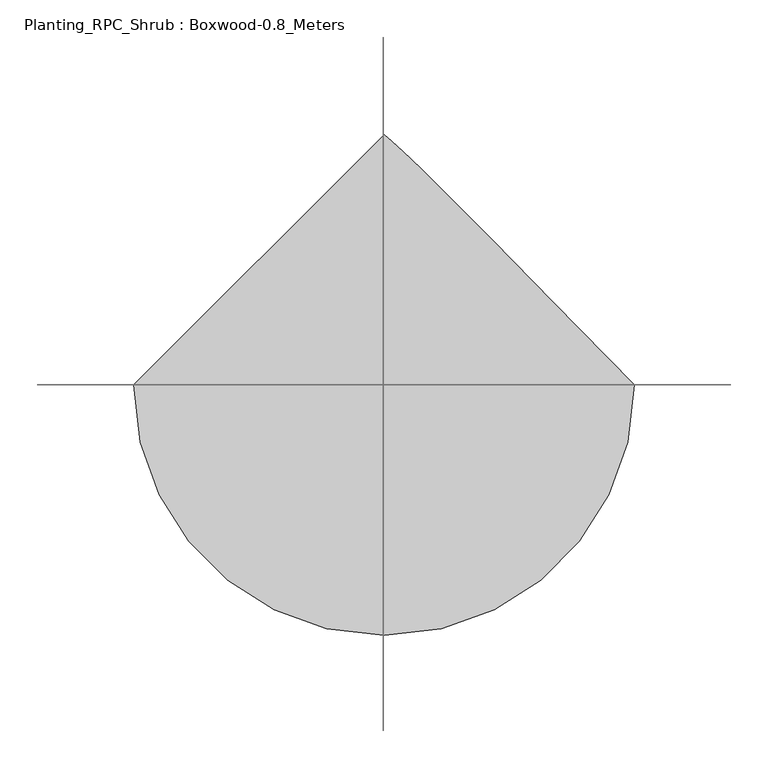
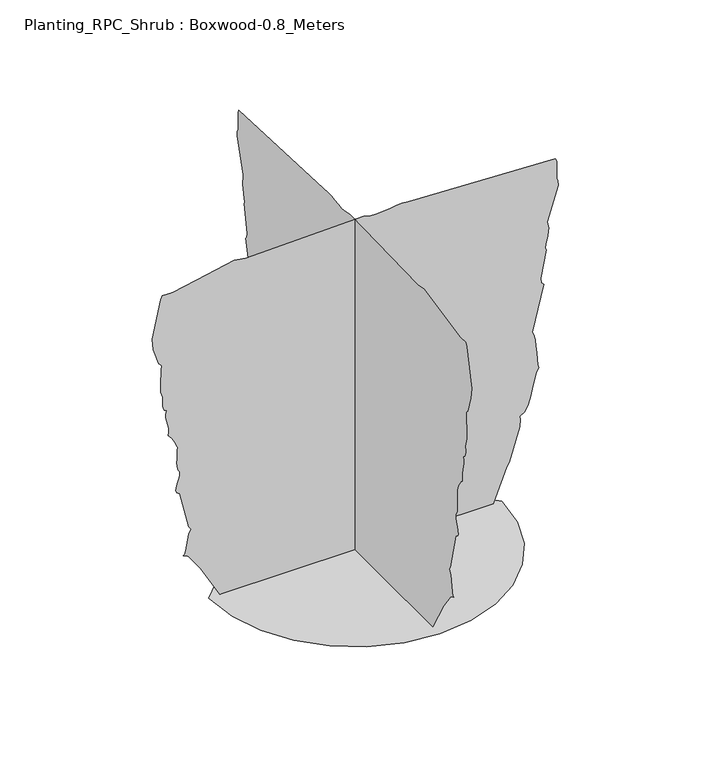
"""IFC4 building model written with IfcOpenShell, lengths in millimetres: geographic element geometry, Planting_RPC_Shrub : Boxwood-0.8_Meters."""

from ifc_helpers import new_model, si_unit, origin, place, context, project, spatial, triangles, source, transform, mapped, element, save


def planting_rpc_shrub_boxwood_0_8_meters_9d4106b8(model_context):
    return source(origin(), model_context, "Body", "Tessellation", [
        triangles([(-334.8049999, 0.0, 0.0), (-325.9524879, -76.7150031, 0.0), (-300.7449968, -147.1654994, 0.0), (-261.2000087, -209.3330074, 0.0), (-209.3330074, -261.2000087, 0.0), (-147.1654994, -300.7449968, 0.0), (-76.7150031, -325.9524879, 0.0), (1.46e-05, -334.8049999, 0.0), (76.7150031, -325.9524879, 0.0), (147.1654994, -300.7449968, 0.0), (209.3330074, -261.2000087, 0.0), (261.2000087, -209.3330074, 0.0), (300.7449968, -147.1654994, 0.0), (325.9524879, -76.7150031, 0.0), (334.8049999, 2.93e-05, 0.0), (226.0005039, 111.6062509, 0.0), (145.3385033, 193.7769984, 0.0), (88.1284961, 251.4175026, 0.0), (49.6799981, 289.435004, 0.0), (25.3027502, 312.7350171, 0.0), (10.3061501, 326.2224933, 0.0), (-4.39e-05, 334.8049999, 0.0), (-309.4400147, 3.66e-05, 1.16184), (-353.9399875, 3.2e-05, 79.661998), (-381.6999936, 2.97e-05, 117.4644962), (-393.4425181, 2.94e-05, 123.1702525), (-390.2850074, 2.92e-05, 125.6652492), (-387.6074819, 2.87e-05, 133.92075), (-385.2150043, 2.8e-05, 145.6324988), (-382.9175065, 2.72e-05, 158.4962485), (-380.5274998, 2.66e-05, 170.2082517), (-377.8475035, 2.61e-05, 178.4637434), (-374.6924998, 2.59e-05, 180.9587583), (-380.3324899, 2.55e-05, 188.4604988), (-401.4475164, 2.03e-05, 275.5724962), (-408.5349835, 1.99e-05, 281.3900009), (-410.8425098, 1.96e-05, 286.5399954), (-409.8100147, 1.92e-05, 293.8824978), (-406.8674981, 1.87e-05, 302.5774976), (-403.4500105, 1.81e-05, 311.7850024), (-400.9825012, 1.76e-05, 320.6600058), (-400.8999845, 1.71e-05, 328.3674932), (-404.6250114, 1.68e-05, 334.0599873), (-406.3799915, 1.66e-05, 337.9750099), (-407.3149999, 1.61e-05, 344.6125045), (-407.6225029, 1.57e-05, 353.1425071), (-407.4924963, 1.51e-05, 362.7325104), (-407.1099978, 1.45e-05, 372.554985), (-406.6675103, 1.39e-05, 381.7774961), (-406.3500152, 1.35e-05, 389.5725145), (-407.0350024, 1.34e-05, 391.5250116), (-409.0224901, 1.31e-05, 396.2200012), (-412.0074823, 1.27e-05, 402.6300024), (-415.6849832, 1.23e-05, 409.7300051), (-419.7499967, 1.19e-05, 416.4899849), (-423.9025048, 1.15e-05, 421.8799902), (-427.8350046, 1.14e-05, 424.8750109), (-426.2275083, 1.08e-05, 434.0374967), (-426.937494, 1.03e-05, 443.4400114), (-428.9700007, 9.7e-06, 452.8574962), (-431.335009, 9.2e-06, 462.065001), (-433.0450064, 8.7e-06, 470.8375033), (-433.1049954, 8.2e-06, 478.9475098), (-430.524993, 7.7e-06, 486.1725048), (-436.2225014, 7.5e-06, 490.1374881), (-439.0950005, 7.2e-06, 495.2375038), (-440.042508, 6.8e-06, 501.2425152), (-439.9699834, 6.5e-06, 507.9274996), (-439.7750098, 6e-06, 515.0700142), (-440.3625103, 5.5e-06, 522.4399858), (-442.6325026, 5.1e-06, 529.8150081), (-444.2050083, 4.8e-06, 535.7724933), (-444.8899956, 4.3e-06, 544.2524989), (-444.8999877, 3.7e-06, 554.5649872), (-444.4600073, 3e-06, 566.0174858), (-443.782505, 2.3e-06, 577.9150154), (-443.0874893, 1.6e-06, 589.5675018), (-442.5924977, 9e-07, 600.280002), (-448.754985, 5e-07, 606.5000075), (-461.5725165, -1.8e-06, 645.5999828), (-463.9300035, -3.3e-06, 670.657465), (-445.0549928, -8.6e-06, 760.5000189), (-441.1724899, -9.1e-06, 768.5374643), (-418.2325021, -9e-06, 766.9975147), (-363.7175157, -9.7e-06, 779.0325359), (-276.479999, -1.08e-05, 796.6249941), (-250.2425016, -1.05e-05, 792.1650192), (18.8353749, -1.09e-05, 798.8925156), (34.8130004, -1.07e-05, 794.9399952), (49.9132506, -1.06e-05, 793.9899805), (64.3882482, -1.07e-05, 795.0349749), (78.491003, -1.08e-05, 797.0599966), (92.4727531, -1.09e-05, 799.0525349), (106.5867535, -1.1e-05, 800.0000061), (121.0847512, -1.09e-05, 798.8925156), (457.4325076, -1.01e-05, 784.7650349), (460.0849983, -9.7e-06, 778.2274979), (460.1625009, -7.2e-06, 736.9850298), (462.8149916, -6.8e-06, 730.445022), (463.5900169, -6.2e-06, 719.2149662), (439.172503, -1.4e-06, 639.4199821), (440.5300146, -8e-07, 628.6149731), (441.9225168, -4e-07, 622.8824741), (441.2624917, 0.0, 614.7749748), (439.3699837, 6e-07, 605.2424898), (437.0675079, 1.2e-06, 595.2324903), (435.1749999, 1.8e-06, 585.6974982), (434.5150111, 2.3e-06, 577.5899989), (435.9050062, 2.6e-06, 571.8575), (423.7875046, 6.4e-06, 508.1424937), (425.4375129, 7.1e-06, 496.6524974), (430.8600017, 7.4e-06, 490.9650175), (404.2474909, 1.38e-05, 383.7549917), (408.0725118, 1.43e-05, 376.7824885), (410.7675144, 1.5e-05, 364.2849956), (412.695013, 1.59e-05, 348.384985), (414.2074934, 1.7e-05, 331.2124866), (415.6649989, 1.8e-05, 314.8849949), (417.4249932, 1.87e-05, 301.5325032), (419.8450127, 1.92e-05, 293.277502), (413.8624927, 1.98e-05, 282.8449993), (409.1249911, 2.08e-05, 266.6924968), (404.8275064, 2.2e-05, 247.416257), (400.159986, 2.31e-05, 227.6080002), (394.3175011, 2.42e-05, 209.8637527), (386.4899992, 2.5e-05, 196.7775056), (375.8675008, 2.54e-05, 190.9442498), (377.5624918, 2.59e-05, 181.7189953), (375.7374942, 2.68e-05, 165.638745), (351.8250003, 3.14e-05, 88.2012478), (346.3400153, 3.2e-05, 79.4212514), (314.8199916, 3.66e-05, 1.030615), (-1.3454299, -308.0950024, 1.1618375), (-1.3454299, -352.5950114, 79.661998), (-1.3454299, -380.3525105, 117.4644962), (-1.3454299, -392.0975058, 123.1702525), (-1.3454299, -388.939995, 125.6652492), (-1.3454299, -386.2625058, 133.92075), (-1.3454299, -383.869992, 145.6324988), (-1.3454299, -381.5724941, 158.4965029), (-1.3454299, -379.1800166, 170.2082517), (-1.3454299, -376.5024911, 178.4637434), (-1.3454299, -373.3450167, 180.9587583), (-1.3454299, -378.9875138, 188.4604988), (-1.3454299, -400.1025041, 275.5724962), (-1.3454299, -407.1900075, 281.3900009), (-1.3454299, -409.4949903, 286.5399954), (-1.3454299, -408.4624952, 293.8824978), (-1.3454299, -405.5224857, 302.5774976), (-1.3454299, -402.1049981, 311.7850024), (-1.3454299, -399.6374888, 320.6600058), (-1.3454299, -399.5525013, 328.3674932), (-1.3454299, -403.2799991, 334.0599873), (-1.3454299, -405.0325084, 337.9750099), (-1.3454299, -405.9699875, 344.6125045), (-1.3454299, -406.2774905, 353.1425071), (-1.3454299, -406.1474839, 362.7325104), (-1.3454299, -405.7649855, 372.554985), (-1.3454299, -405.3224979, 381.7774961), (-1.3454299, -405.0050028, 389.5725145), (-1.3454299, -405.68999, 391.5250116), (-1.3454299, -407.6775141, 396.2200012), (-1.3454299, -410.6625063, 402.6300024), (-1.3454299, -414.3375, 409.7300051), (-1.3454299, -418.4049843, 416.4899849), (-1.3454299, -422.5574924, 421.8799902), (-1.3454299, -426.4874851, 424.8750109), (-1.3454299, -424.8824959, 434.0374967), (-1.3454299, -425.5925179, 443.4400114), (-1.3454299, -427.6249884, 452.8574962), (-1.3454299, -429.9899966, 462.065001), (-1.3454299, -431.6974869, 470.8375033), (-1.3454299, -431.7599831, 478.9500169), (-1.3454299, -429.180017, 486.1725048), (-1.3454299, -434.877489, 490.1374881), (-1.3454299, -437.7499881, 495.2375038), (-1.3454299, -438.6974957, 501.2425152), (-1.3454299, -438.6250073, 507.9274996), (-1.3454299, -438.4299974, 515.0700142), (-1.3454299, -439.0174979, 522.4399858), (-1.3454299, -441.2874902, 529.8150081), (-1.3454299, -442.8599959, 535.7724933), (-1.3454299, -443.5425124, 544.2524989), (-1.3454299, -443.5550117, 554.5649872), (-1.3454299, -443.1124878, 566.0174858), (-1.3454299, -442.4349855, 577.9150154), (-1.3454299, -441.7400062, 589.5675018), (-1.3454299, -441.2450146, 600.280002), (-1.3454299, -447.4100089, 606.5000075), (-1.3454299, -460.2275042, 645.5999828), (-1.3454299, -462.5849911, 670.657465), (-1.3454299, -443.7100167, 760.5000189), (-1.3454299, -439.8275139, 768.5374643), (-1.3454299, -416.8874897, 766.9975147), (-1.3454299, -362.3725033, 779.0325359), (-1.3454299, -275.1350048, 796.6249941), (-1.3454299, -248.8969987, 792.1650192), (-1.3454299, 20.1808744, 798.8925156), (-1.3454299, 36.158249, 794.9399952), (-1.3454299, 51.2587489, 793.9899805), (-1.3454299, 65.7337511, 795.0349749), (-1.3454299, 79.8364968, 797.0599966), (-1.3454299, 93.8182469, 799.0525349), (-1.3454299, 107.9322473, 800.0000061), (-1.3454299, 122.4302541, 798.8925156), (-1.3454299, 458.7774837, 784.7650349), (-1.3454299, 461.4300107, 778.2274979), (-1.3454299, 461.5075132, 736.9850298), (-1.3454299, 464.1600039, 730.445022), (-1.3454299, 464.934993, 719.2149662), (-1.3454299, 440.5175154, 639.4199821), (-1.3454299, 441.8774978, 628.6175165), (-1.3454299, 443.2674929, 622.8824741), (-1.3454299, 442.6075041, 614.7749748), (-1.3454299, 440.7149961, 605.2424898), (-1.3454299, 438.412484, 595.2324903), (-1.3454299, 436.5224831, 585.6974982), (-1.3454299, 435.8599872, 577.5899989), (-1.3454299, 437.2524894, 571.8575), (-1.3454299, 425.1349877, 508.1424937), (-1.3454299, 426.784996, 496.6524974), (-1.3454299, 432.2074848, 490.9650175), (-1.3454299, 405.5925033, 383.7549917), (-1.3454299, 409.4174878, 376.7824885), (-1.3454299, 412.1149976, 364.2849956), (-1.3454299, 414.0399891, 348.384985), (-1.3454299, 415.5525058, 331.2124866), (-1.3454299, 417.0100113, 314.8849949), (-1.3454299, 418.7700056, 301.5325032), (-1.3454299, 421.1899887, 293.277502), (-1.3454299, 415.207505, 282.8449993), (-1.3454299, 410.4700035, 266.6924968), (-1.3454299, 406.1724824, 247.416257), (-1.3454299, 401.5049984, 227.6080002), (-1.3454299, 395.6625134, 209.8637527), (-1.3454299, 387.8350116, 196.7775056), (-1.3454299, 377.2125132, 190.9442498), (-1.3454299, 378.9075042, 181.7189953), (-1.3454299, 377.0825066, 165.6389993), (-1.3454299, 353.1700127, 88.2012478), (-1.3454299, 347.6849914, 79.4212514), (-1.3454299, 316.1675111, 1.03061)], [[21, 22, 1], [20, 21, 1], [19, 20, 1], [18, 19, 1], [17, 18, 1], [17, 1, 2], [17, 2, 3], [17, 3, 4], [16, 17, 4], [16, 4, 5], [16, 5, 6], [16, 6, 7], [16, 7, 8], [16, 8, 9], [16, 9, 10], [16, 10, 11], [16, 11, 12], [15, 16, 12], [14, 15, 12], [13, 14, 12], [25, 26, 27], [131, 132, 23], [82, 83, 84], [95, 96, 97], [95, 97, 98], [25, 27, 28], [56, 57, 58], [131, 23, 24], [130, 131, 24], [129, 130, 24], [128, 129, 24], [127, 128, 24], [95, 98, 99], [95, 99, 100], [95, 100, 101], [95, 101, 102], [127, 24, 25], [127, 25, 28], [127, 28, 29], [127, 29, 30], [127, 30, 31], [127, 31, 32], [127, 32, 33], [127, 33, 34], [127, 34, 35], [111, 112, 113], [95, 102, 103], [95, 103, 104], [95, 104, 105], [95, 105, 106], [95, 106, 107], [95, 107, 108], [119, 120, 121], [81, 82, 84], [95, 108, 109], [95, 109, 110], [94, 95, 110], [93, 94, 110], [92, 93, 110], [91, 92, 110], [91, 110, 111], [90, 91, 111], [90, 111, 113], [89, 90, 113], [126, 127, 35], [125, 126, 35], [124, 125, 35], [123, 124, 35], [122, 123, 35], [121, 122, 35], [119, 121, 35], [118, 119, 35], [117, 118, 35], [116, 117, 35], [115, 116, 35], [114, 115, 35], [113, 114, 35], [89, 113, 35], [88, 89, 35], [87, 88, 35], [87, 35, 36], [87, 36, 37], [81, 84, 85], [80, 81, 85], [79, 80, 85], [78, 79, 85], [78, 85, 86], [78, 86, 87], [77, 78, 87], [76, 77, 87], [75, 76, 87], [74, 75, 87], [73, 74, 87], [72, 73, 87], [71, 72, 87], [70, 71, 87], [69, 70, 87], [68, 69, 87], [67, 68, 87], [66, 67, 87], [65, 66, 87], [64, 65, 87], [55, 56, 58], [62, 63, 64], [62, 64, 87], [61, 62, 87], [60, 61, 87], [59, 60, 87], [58, 59, 87], [55, 58, 87], [54, 55, 87], [53, 54, 87], [52, 53, 87], [51, 52, 87], [50, 51, 87], [49, 50, 87], [48, 49, 87], [47, 48, 87], [46, 47, 87], [45, 46, 87], [44, 45, 87], [43, 44, 87], [42, 43, 87], [41, 42, 87], [37, 38, 39], [37, 39, 40], [87, 37, 40], [41, 87, 40], [135, 136, 137], [241, 242, 133], [192, 193, 194], [205, 206, 207], [205, 207, 208], [135, 137, 138], [166, 167, 168], [241, 133, 134], [240, 241, 134], [239, 240, 134], [238, 239, 134], [237, 238, 134], [205, 208, 209], [205, 209, 210], [205, 210, 211], [205, 211, 212], [237, 134, 135], [237, 135, 138], [237, 138, 139], [237, 139, 140], [237, 140, 141], [237, 141, 142], [237, 142, 143], [237, 143, 144], [237, 144, 145], [221, 222, 223], [205, 212, 213], [205, 213, 214], [205, 214, 215], [205, 215, 216], [205, 216, 217], [205, 217, 218], [229, 230, 231], [191, 192, 194], [205, 218, 219], [205, 219, 220], [204, 205, 220], [203, 204, 220], [202, 203, 220], [201, 202, 220], [201, 220, 221], [200, 201, 221], [200, 221, 223], [199, 200, 223], [236, 237, 145], [235, 236, 145], [234, 235, 145], [233, 234, 145], [232, 233, 145], [231, 232, 145], [229, 231, 145], [228, 229, 145], [227, 228, 145], [226, 227, 145], [225, 226, 145], [224, 225, 145], [223, 224, 145], [199, 223, 145], [198, 199, 145], [197, 198, 145], [197, 145, 146], [197, 146, 147], [191, 194, 195], [190, 191, 195], [189, 190, 195], [188, 189, 195], [188, 195, 196], [188, 196, 197], [187, 188, 197], [186, 187, 197], [185, 186, 197], [184, 185, 197], [183, 184, 197], [182, 183, 197], [181, 182, 197], [180, 181, 197], [179, 180, 197], [178, 179, 197], [177, 178, 197], [176, 177, 197], [175, 176, 197], [174, 175, 197], [165, 166, 168], [172, 173, 174], [172, 174, 197], [171, 172, 197], [170, 171, 197], [169, 170, 197], [168, 169, 197], [165, 168, 197], [164, 165, 197], [163, 164, 197], [162, 163, 197], [161, 162, 197], [160, 161, 197], [159, 160, 197], [158, 159, 197], [157, 158, 197], [156, 157, 197], [155, 156, 197], [154, 155, 197], [153, 154, 197], [152, 153, 197], [151, 152, 197], [147, 148, 149], [147, 149, 150], [197, 147, 150], [151, 197, 150]], closed=False),
    ])


if __name__ == "__main__":
    model = new_model("IFC4")
    model_context = context("Model", 3, world=origin())
    ifc_project = project(units=[si_unit("LENGTHUNIT", "METRE", prefix="MILLI")], contexts=[model_context])
    site = spatial("IfcSite", under=ifc_project)
    building = spatial("IfcBuilding", under=site)
    placement = place(None, origin())
    planting_rpc_shrub_boxwood_0_8_meters_shape = planting_rpc_shrub_boxwood_0_8_meters_9d4106b8(model_context)
    element("IfcGeographicElement", 1, ObjectType="Planting_RPC_Shrub : Boxwood-0.8_Meters", at=placement, inside=building, context=model_context, shape_type="MappedRepresentation", body=[
        mapped(planting_rpc_shrub_boxwood_0_8_meters_shape, transform((0.0, 0.0, 0.0), x_axis=(1.0, 0.0, 0.0), y_axis=(0.0, 1.0, 0.0), z_axis=(0.0, 0.0, 1.0))),
    ])
    save(model, "model.ifc")
